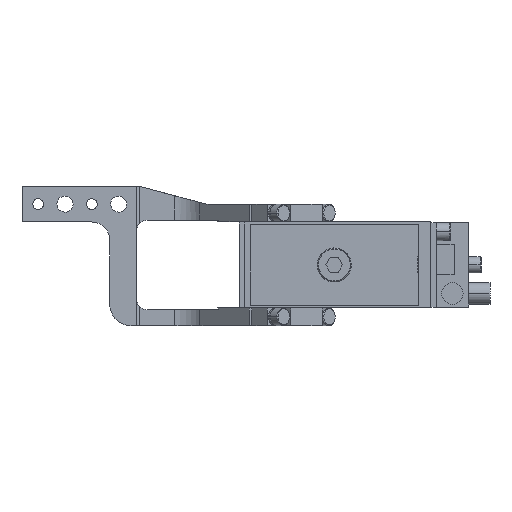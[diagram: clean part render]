
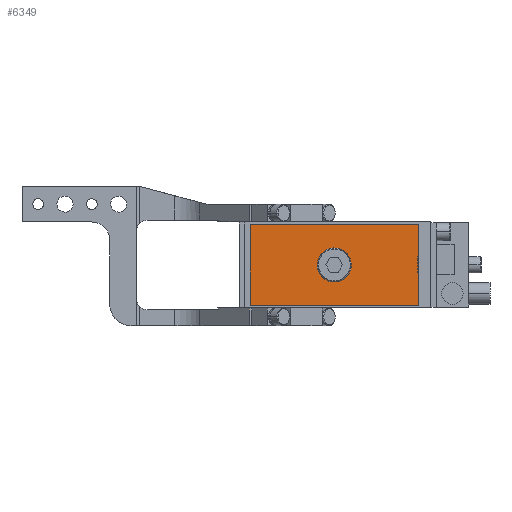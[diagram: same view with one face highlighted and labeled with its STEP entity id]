
A CAD part, left-side view. The second image highlights one B-rep face of the part: STEP entity #6349.
In plain terms, the highlighted planar face has unit normal (-1, 0, 0).
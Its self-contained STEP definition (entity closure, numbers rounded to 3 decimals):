
#34 = ORIENTED_EDGE ( 'NONE', *, *, #8330, .T. ) ;
#516 = VERTEX_POINT ( 'NONE', #11179 ) ;
#552 = VECTOR ( 'NONE', #10475, 1000. ) ;
#796 = LINE ( 'NONE', #11669, #7828 ) ;
#971 = CARTESIAN_POINT ( 'NONE',  ( -269.5, -30.5, 0. ) ) ;
#1107 = CARTESIAN_POINT ( 'NONE',  ( -269.5, -30.5, 0. ) ) ;
#1218 = AXIS2_PLACEMENT_3D ( 'NONE', #971, #9855, #4963 ) ;
#1336 = CARTESIAN_POINT ( 'NONE',  ( -269.5, -30.5, -22.5 ) ) ;
#1436 = CARTESIAN_POINT ( 'NONE',  ( -269.5, 0., 0. ) ) ;
#2265 = VECTOR ( 'NONE', #6515, 1000. ) ;
#2406 = VERTEX_POINT ( 'NONE', #6787 ) ;
#2489 = DIRECTION ( 'NONE',  ( 0., 0., -1. ) ) ;
#2518 = AXIS2_PLACEMENT_3D ( 'NONE', #1436, #5358, #4396 ) ;
#2894 = EDGE_CURVE ( 'NONE', #10154, #7039, #7800, .T. ) ;
#3139 = CIRCLE ( 'NONE', #10949, 9.5 ) ;
#3211 = DIRECTION ( 'NONE',  ( 0., -1., 0. ) ) ;
#3385 = LINE ( 'NONE', #10709, #2265 ) ;
#3540 = EDGE_LOOP ( 'NONE', ( #5357, #34, #8816, #7041, #9888 ) ) ;
#3706 = CARTESIAN_POINT ( 'NONE',  ( -269.5, -77.5, 22.5 ) ) ;
#3809 = DIRECTION ( 'NONE',  ( 0., 0., 1. ) ) ;
#3887 = ORIENTED_EDGE ( 'NONE', *, *, #7171, .F. ) ;
#4236 = CARTESIAN_POINT ( 'NONE',  ( -269.5, -77.5, -22.5 ) ) ;
#4396 = DIRECTION ( 'NONE',  ( 0., 0., 1. ) ) ;
#4963 = DIRECTION ( 'NONE',  ( 0., -1., 0. ) ) ;
#5207 = LINE ( 'NONE', #1336, #10226 ) ;
#5296 = FACE_OUTER_BOUND ( 'NONE', #3540, .T. ) ;
#5357 = ORIENTED_EDGE ( 'NONE', *, *, #8275, .T. ) ;
#5358 = DIRECTION ( 'NONE',  ( -1., 0., 0. ) ) ;
#5644 = EDGE_CURVE ( 'NONE', #12061, #2406, #12647, .T. ) ;
#5705 = CARTESIAN_POINT ( 'NONE',  ( -269.5, 16.5, -22.5 ) ) ;
#6349 = ADVANCED_FACE ( 'NONE', ( #5296, #9227 ), #10255, .T. ) ;
#6515 = DIRECTION ( 'NONE',  ( 0., 1., 0. ) ) ;
#6780 = DIRECTION ( 'NONE',  ( 0., -1., 0. ) ) ;
#6787 = CARTESIAN_POINT ( 'NONE',  ( -269.5, -77.5, 0. ) ) ;
#7039 = VERTEX_POINT ( 'NONE', #8011 ) ;
#7041 = ORIENTED_EDGE ( 'NONE', *, *, #10299, .T. ) ;
#7171 = EDGE_CURVE ( 'NONE', #7039, #10154, #3139, .T. ) ;
#7697 = CARTESIAN_POINT ( 'NONE',  ( -269.5, -77.5, -11.25 ) ) ;
#7800 = CIRCLE ( 'NONE', #1218, 9.5 ) ;
#7828 = VECTOR ( 'NONE', #3809, 1000. ) ;
#7864 = EDGE_CURVE ( 'NONE', #516, #8099, #11320, .T. ) ;
#8011 = CARTESIAN_POINT ( 'NONE',  ( -269.5, -22.163, 4.555 ) ) ;
#8099 = VERTEX_POINT ( 'NONE', #5705 ) ;
#8275 = EDGE_CURVE ( 'NONE', #2406, #11176, #796, .T. ) ;
#8330 = EDGE_CURVE ( 'NONE', #11176, #516, #3385, .T. ) ;
#8816 = ORIENTED_EDGE ( 'NONE', *, *, #7864, .T. ) ;
#9227 = FACE_BOUND ( 'NONE', #12564, .T. ) ;
#9796 = CARTESIAN_POINT ( 'NONE',  ( -269.5, -38.837, -4.555 ) ) ;
#9855 = DIRECTION ( 'NONE',  ( -1., 0., 0. ) ) ;
#9888 = ORIENTED_EDGE ( 'NONE', *, *, #5644, .T. ) ;
#10154 = VERTEX_POINT ( 'NONE', #9796 ) ;
#10226 = VECTOR ( 'NONE', #3211, 1000. ) ;
#10255 = PLANE ( 'NONE',  #2518 ) ;
#10299 = EDGE_CURVE ( 'NONE', #8099, #12061, #5207, .T. ) ;
#10475 = DIRECTION ( 'NONE',  ( 0., 0., 1. ) ) ;
#10709 = CARTESIAN_POINT ( 'NONE',  ( -269.5, -30.5, 22.5 ) ) ;
#10822 = DIRECTION ( 'NONE',  ( -1., 0., 0. ) ) ;
#10949 = AXIS2_PLACEMENT_3D ( 'NONE', #1107, #10822, #6780 ) ;
#11124 = ORIENTED_EDGE ( 'NONE', *, *, #2894, .F. ) ;
#11176 = VERTEX_POINT ( 'NONE', #3706 ) ;
#11179 = CARTESIAN_POINT ( 'NONE',  ( -269.5, 16.5, 22.5 ) ) ;
#11320 = LINE ( 'NONE', #12339, #11438 ) ;
#11438 = VECTOR ( 'NONE', #2489, 1000. ) ;
#11669 = CARTESIAN_POINT ( 'NONE',  ( -269.5, -77.5, 11.25 ) ) ;
#12061 = VERTEX_POINT ( 'NONE', #4236 ) ;
#12339 = CARTESIAN_POINT ( 'NONE',  ( -269.5, 16.5, 0. ) ) ;
#12564 = EDGE_LOOP ( 'NONE', ( #11124, #3887 ) ) ;
#12647 = LINE ( 'NONE', #7697, #552 ) ;
